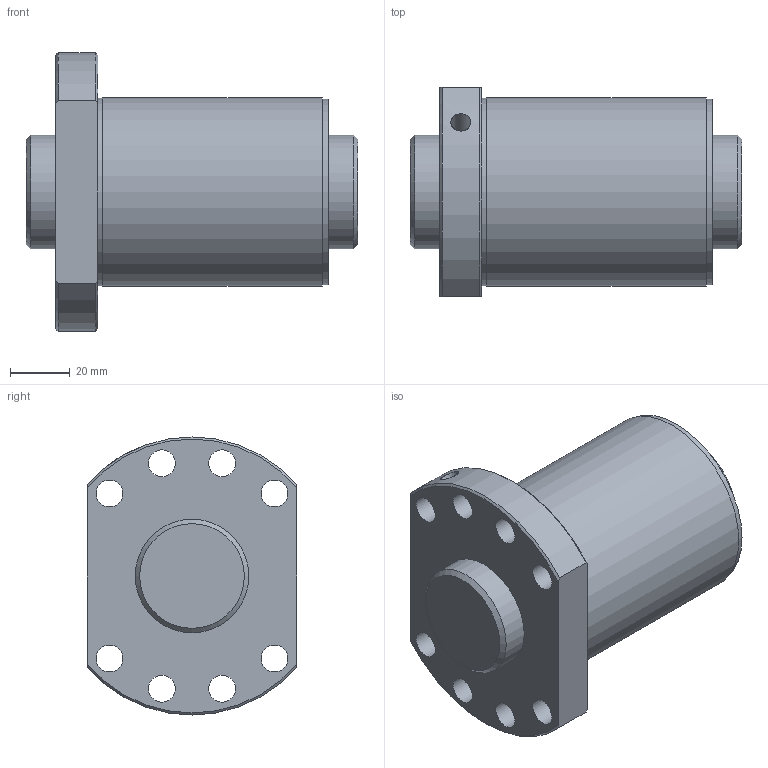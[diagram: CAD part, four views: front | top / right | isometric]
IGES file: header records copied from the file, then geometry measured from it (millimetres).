
Start section: Data from Parasolid IGES Translator 26.0.171, Copyright(c) 2006 Siemens PLM Software. All Rights Reserved.
Global section: file name: SDA3816V-5G0+111LC0(0G000).igs; native system: By Siemens PLM Incorporated; preprocessor: XPlus GENERIC/IGES 26.0.171; author: Noname; organization: Noname; date: 20240528.113349; units: millimetre
Bounding box: 111 x 70 x 93 mm (x, y, z)
Surface area: 57303.8 mm2 (no closed solid volume)
Topology: 0 solids, 0 shells, 33 faces, 158 edges, 133 vertices
Faces by surface type: revolution 24, extrusion 9
